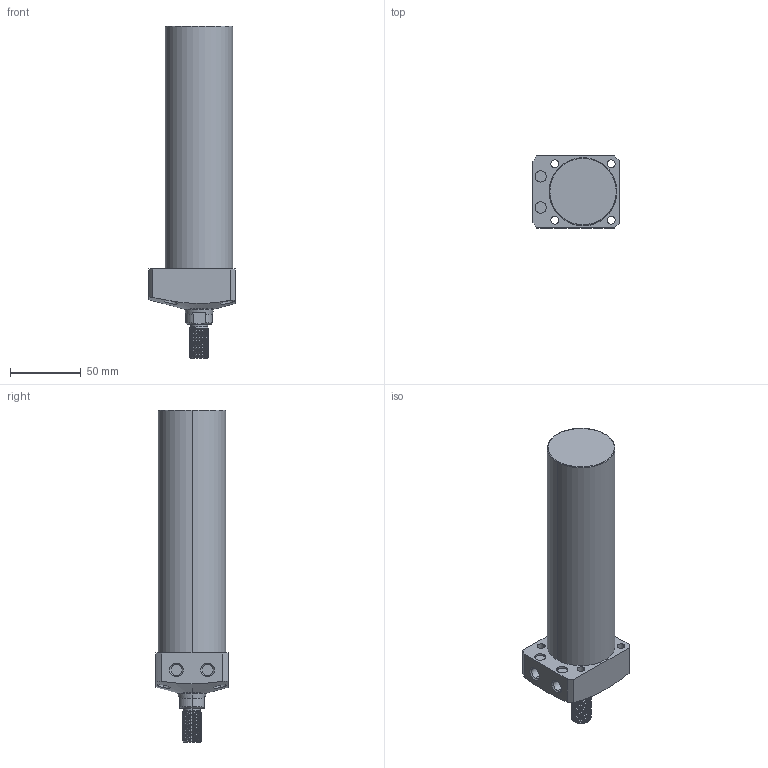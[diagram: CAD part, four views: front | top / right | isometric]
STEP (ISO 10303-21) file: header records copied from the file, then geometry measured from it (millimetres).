
FILE_DESCRIPTION (( 'STEP AP203' ), '1' );
FILE_NAME ('CLL-048CT-145.STEP', '2020-01-08T10:18:13', ( '' ), ( '' ), 'SwSTEP 2.0', 'SolidWorks 2015', '' );
FILE_SCHEMA (( 'CONFIG_CONTROL_DESIGN' ));
Length unit declared in the file: millimetre
Products named in the file (1): CLL-048CT-145
Bounding box: 61 x 51 x 235 mm (x, y, z)
Volume: 390242.1 mm3; surface area: 41982.4 mm2
Topology: 1 solids, 1 shells, 122 faces, 310 edges, 201 vertices
Faces by surface type: cylinder 77, plane 24, cone 17, torus 2, bspline 2
Entity records: 6479 total; most frequent: CARTESIAN_POINT 3678, ORIENTED_EDGE 620, DIRECTION 522, EDGE_CURVE 310, AXIS2_PLACEMENT_3D 206, VERTEX_POINT 201, EDGE_LOOP 141, ADVANCED_FACE 122
